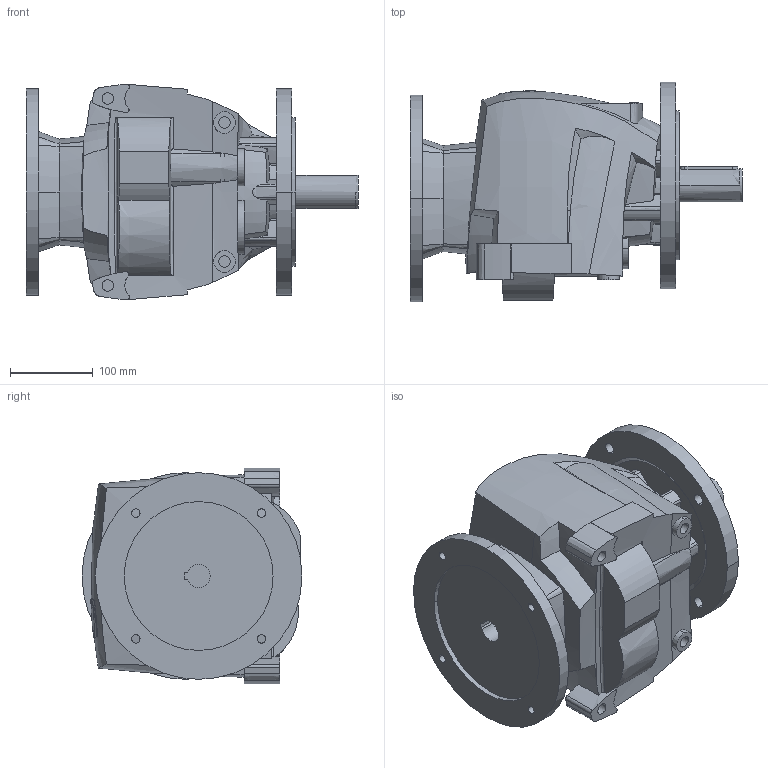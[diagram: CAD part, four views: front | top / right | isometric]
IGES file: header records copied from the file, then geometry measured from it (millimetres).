
Start section:  PTC IGES file: r40_250_pam100112.igs
Global section: file name: r40_250_pam100112.igs; native system: Pro/ENGINEER by Parametric Technology Corporation; preprocessor: 2008230; author: Luca; organization: Unknown; date: 20131127.111536; units: millimetre
Bounding box: 401.5 x 265.98 x 260.56 mm (x, y, z)
Volume: 12089692.7 mm3; surface area: 516552.8 mm2
Topology: 1 solids, 7 shells, 449 faces, 1213 edges, 810 vertices
Faces by surface type: bspline 214, revolution 198, extrusion 37
